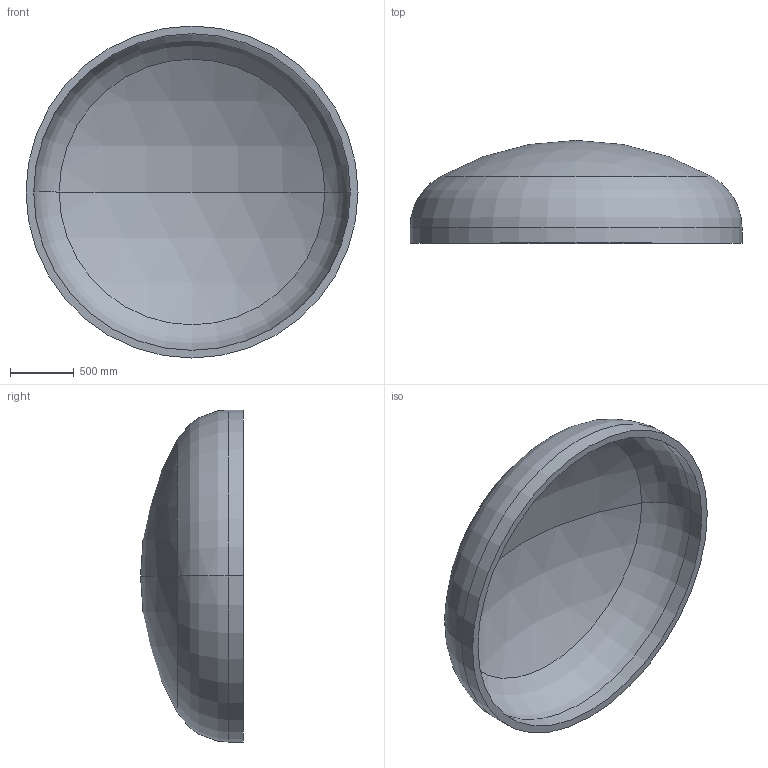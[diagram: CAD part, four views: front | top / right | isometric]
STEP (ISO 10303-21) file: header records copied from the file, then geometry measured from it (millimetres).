
FILE_DESCRIPTION (( 'STEP AP203' ), '1' );
FILE_NAME ('DIN 28013 Korbbogenform_-_Boden DIN 28013 - 2600 x 120 - I - s=60.step', '2016-07-01T16:19:07', ( '' ), ( '' ), 'SwSTEP 2.0', 'SolidWorks 2013', '' );
FILE_SCHEMA (( 'CONFIG_CONTROL_DESIGN' ));
Length unit declared in the file: millimetre
Products named in the file (1): DIN 28013 Korbbogenform_-_Boden DIN 28013 - 2600 x 120 - I - s=60
Bounding box: 2600 x 805.08 x 2600 mm (x, y, z)
Volume: 485392508.2 mm3; surface area: 16666063.5 mm2
Topology: 1 solids, 1 shells, 13 faces, 24 edges, 14 vertices
Faces by surface type: torus 4, cylinder 4, sphere 4, plane 1
Entity records: 407 total; most frequent: DIRECTION 72, CARTESIAN_POINT 52, ORIENTED_EDGE 48, AXIS2_PLACEMENT_3D 34, EDGE_CURVE 24, CIRCLE 20, VERTEX_POINT 14, EDGE_LOOP 14
